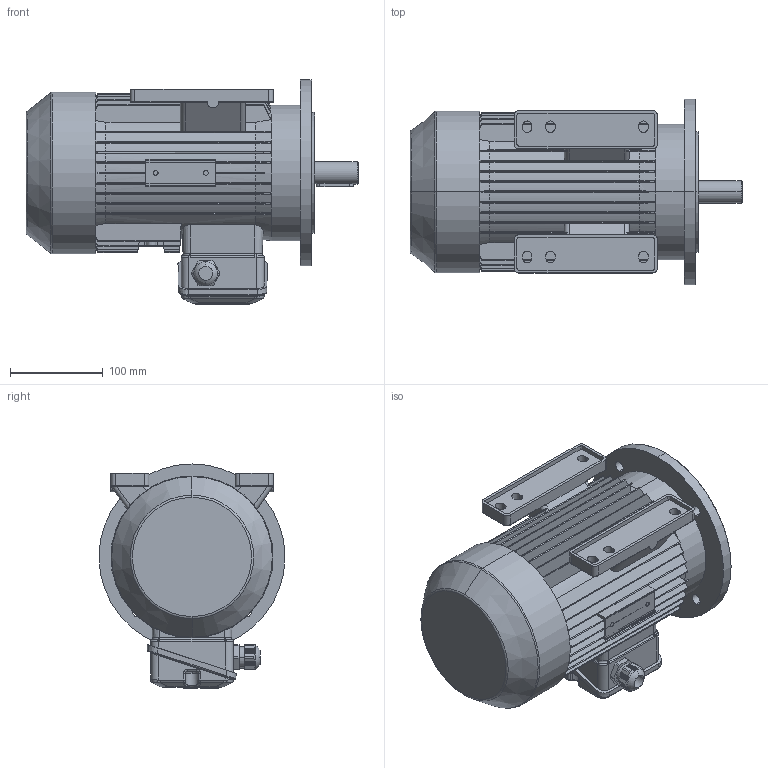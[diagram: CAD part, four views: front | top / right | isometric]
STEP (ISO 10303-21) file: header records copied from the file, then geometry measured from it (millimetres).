
FILE_DESCRIPTION (( 'STEP AP214' ), '1' );
FILE_NAME ('MAP90L6A IM2041 A200 FF165.STEP', '2021-04-28T08:03:09', ( '' ), ( '' ), 'SwSTEP 2.0', 'SolidWorks 2018', '' );
FILE_SCHEMA (( 'AUTOMOTIVE_DESIGN' ));
Length unit declared in the file: millimetre
Products named in the file (1): MAP90L6A IM2041 A200 FF165
Bounding box: 357 x 200 x 241 mm (x, y, z)
Volume: 6437242 mm3; surface area: 491012 mm2
Topology: 2 solids, 8 shells, 1359 faces, 3606 edges, 2294 vertices
Faces by surface type: plane 587, cylinder 351, bspline 188, cone 148, torus 83, sphere 2
Entity records: 54241 total; most frequent: CARTESIAN_POINT 22799, ORIENTED_EDGE 7200, DIRECTION 5744, EDGE_CURVE 3600, VERTEX_POINT 2294, AXIS2_PLACEMENT_3D 2024, LINE 1696, VECTOR 1696
